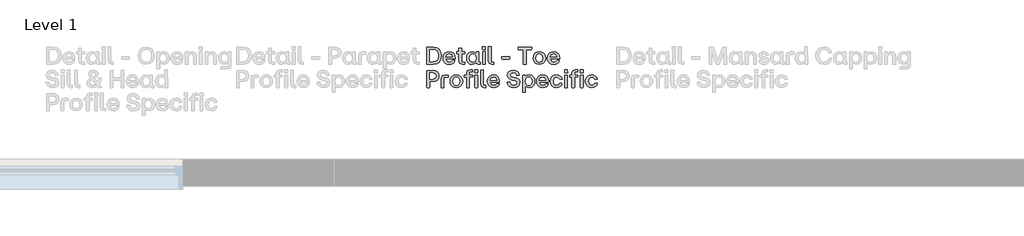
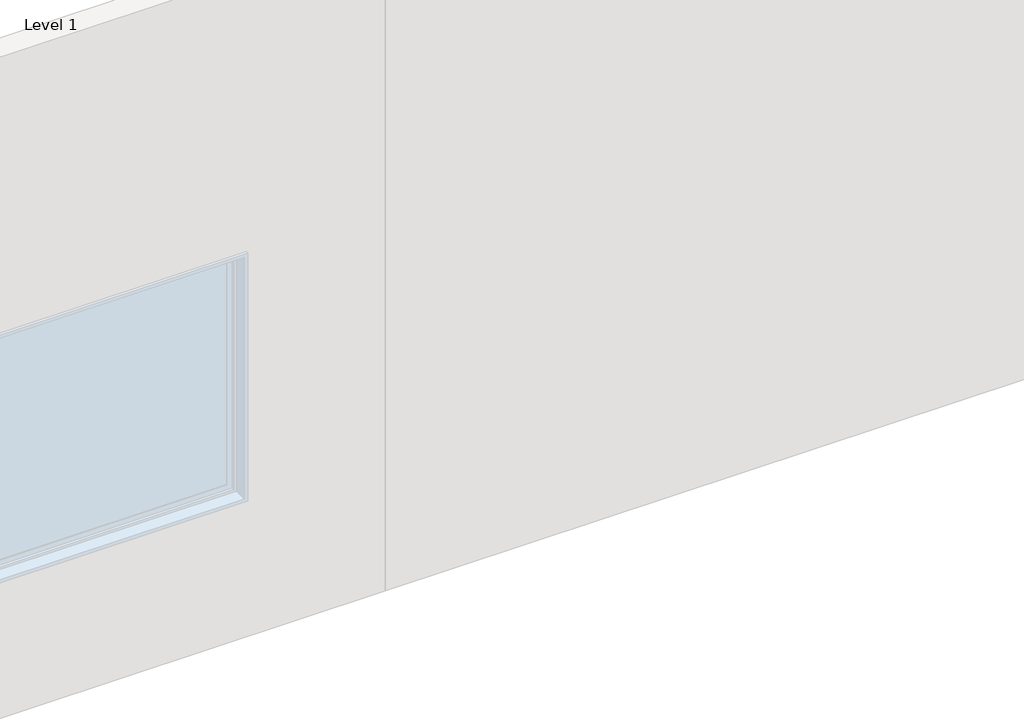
# One storey, part 46 of 64: 1 proxy.
"""IFC4 building model written with IfcOpenShell, lengths in millimetres."""

from ifc_helpers import new_model, si_unit, origin, origin_with_axes, place, context, project, spatial, polyline, outline, extrude, element, save

model = new_model("IFC4")

# Units and contexts
model_context = context("Model", 3, world=origin())
ifc_project = project(units=[si_unit("LENGTHUNIT", "METRE", prefix="MILLI")], contexts=[model_context])

# Site, building, storey
site = spatial("IfcSite", under=ifc_project)
building = spatial("IfcBuilding", under=site)
storey = spatial("IfcBuildingStorey", under=building, Name="Level 1", Elevation=0.0)

# Proxy
placement = place(None, origin())
element("IfcBuildingElementProxy", 1, Name="90mm", ObjectType="90mm", at=placement, inside=storey, context=model_context, shape_type="SweptSolid", body=[
    extrude(outline(polyline([(17110.2926176, -6500.0), (17108.9872124, -6498.7448027), (17108.9872124, -6411.3077612), (17142.5511873, -6410.002356), (17160.5475781, -6413.0054155), (17174.1193986, -6422.0145938), (17182.63905, -6436.3583606), (17185.4789338, -6455.3651852), (17182.648464, -6474.2025582), (17174.1570545, -6488.2890095), (17160.594648, -6497.0722524), (17142.5511873, -6500.0), (17110.2926176, -6500.0)]), holes=[polyline([(17123.7985402, -6487.3727155), (17141.6725492, -6487.3727155), (17153.8950326, -6485.311054), (17162.9481429, -6479.1260695), (17168.5494607, -6469.0625254), (17170.4165666, -6455.3651852), (17168.5431847, -6441.5109454), (17162.923039, -6431.1775339), (17153.8636527, -6424.7477859), (17141.6725492, -6422.6045366), (17123.7985402, -6422.6045366), (17123.7985402, -6487.3727155)])]), origin_with_axes(), (0.0, 0.0, 1.0), 20.0),
    extrude(outline(polyline([(17227.628458, -6500.7531184), (17214.0409476, -6498.4843493), (17203.5035666, -6491.6780421), (17196.7443293, -6481.0622112), (17194.4912502, -6467.3648711), (17196.7349153, -6453.5012173), (17203.4659107, -6442.7881086), (17213.9938777, -6435.9347315), (17227.628458, -6433.6502725), (17240.1584647, -6435.9033516), (17249.7324819, -6442.6625889), (17255.8044987, -6453.3129377), (17257.8285043, -6467.2393514), (17257.8285043, -6470.6785919), (17256.573307, -6472.009101), (17209.1268503, -6472.009101), (17214.6497183, -6484.6865934), (17227.628458, -6489.2053035), (17238.0465953, -6486.9082925), (17243.4439436, -6480.4691305), (17244.8246606, -6479.4147648), (17256.1967478, -6479.4147648), (17254.1633282, -6488.7314665), (17247.8120301, -6495.1925945), (17238.8248176, -6499.3629874), (17227.628458, -6500.7531184)]), holes=[polyline([(17209.2523701, -6461.5909637), (17243.8205028, -6461.5909637), (17239.0633051, -6449.6289337), (17227.628458, -6445.2733992), (17214.8631018, -6449.4155502), (17209.2523701, -6461.5909637)])]), origin_with_axes(), (0.0, 0.0, 1.0), 20.0),
    extrude(outline(polyline([(17296.6140998, -6500.0), (17282.731618, -6495.2302504), (17277.9618684, -6481.3477686), (17277.9618684, -6445.7754781), (17266.7906127, -6445.7754781), (17265.4852076, -6435.7339), (17266.7906127, -6434.4787027), (17277.9618684, -6434.4787027), (17277.9618684, -6416.45407), (17279.2170657, -6415.1486648), (17290.9657121, -6415.1486648), (17292.2209094, -6416.45407), (17292.2209094, -6434.4787027), (17308.0363949, -6434.4787027), (17309.3418001, -6435.7339), (17309.3418001, -6444.444969), (17292.2209094, -6445.7754781), (17292.2209094, -6488.7032246), (17308.0363949, -6488.7032246), (17309.3418001, -6489.9584219), (17309.3418001, -6498.7448027), (17308.0363949, -6500.0), (17296.6140998, -6500.0)])), origin_with_axes(), (0.0, 0.0, 1.0), 20.0),
    extrude(outline(polyline([(17347.2738615, -6500.7531184), (17335.3243835, -6498.4843493), (17326.0861316, -6491.6780421), (17320.1741525, -6481.0622112), (17318.2034928, -6467.3648711), (17320.1741525, -6453.5325972), (17326.0861316, -6442.8132125), (17335.3243835, -6435.9410075), (17347.2738615, -6433.6502725), (17359.1856835, -6436.5372262), (17368.160344, -6444.444969), (17368.7377347, -6435.7339), (17369.992932, -6434.4787027), (17381.6662665, -6434.4787027), (17382.9716717, -6435.7339), (17382.9716717, -6488.7032246), (17390.0760882, -6488.7032246), (17391.3312855, -6489.9584219), (17391.3312855, -6498.7448027), (17390.0760882, -6500.0), (17380.536589, -6500.0), (17372.1581473, -6497.6465051), (17369.3653333, -6490.5860205), (17359.7254183, -6497.8661646), (17347.2738615, -6500.7531184)]), holes=[polyline([(17332.7135732, -6467.3648711), (17337.6716024, -6483.3686362), (17343.5365116, -6487.7461367), (17351.2151809, -6489.2053035), (17358.7714684, -6487.7524127), (17364.470064, -6483.3937402), (17369.2398136, -6467.3648711), (17364.4324081, -6451.1728263), (17358.7243985, -6446.748256), (17351.2151809, -6445.2733992), (17343.5365116, -6446.748256), (17337.6716024, -6451.1728263), (17332.7135732, -6467.3648711)])]), origin_with_axes(), (0.0, 0.0, 1.0), 20.0),
    extrude(outline(polyline([(17403.6824266, -6500.0), (17402.3770214, -6498.7448027), (17402.3770214, -6435.7339), (17403.6824266, -6434.4787027), (17415.3557612, -6434.4787027), (17416.6109584, -6435.7339), (17416.6109584, -6498.7448027), (17415.3557612, -6500.0), (17403.6824266, -6500.0)])), origin_with_axes(), (0.0, 0.0, 1.0), 20.0),
    extrude(outline(polyline([(17401.3728636, -6421.8514182), (17401.3728636, -6407.9940404), (17402.6280609, -6406.6635313), (17416.4854387, -6406.6635313), (17417.8159478, -6421.8514182), (17416.4854387, -6423.1066155), (17402.6280609, -6423.1066155), (17401.3728636, -6421.8514182)])), origin_with_axes(), (0.0, 0.0, 1.0), 20.0),
    extrude(outline(polyline([(17451.5305464, -6500.0), (17437.6731686, -6495.2302504), (17432.903419, -6481.3477686), (17432.903419, -6408.7471587), (17445.8821587, -6407.4166496), (17447.137356, -6408.7471587), (17447.137356, -6488.7032246), (17459.1370418, -6488.7032246), (17460.3922391, -6489.9584219), (17460.3922391, -6498.7448027), (17459.1370418, -6500.0), (17451.5305464, -6500.0)])), origin_with_axes(), (0.0, 0.0, 1.0), 20.0),
    extrude(outline(polyline([(17505.1776775, -6472.887739), (17503.9224803, -6471.5572299), (17503.9224803, -6461.5909637), (17505.1776775, -6460.2604546), (17543.7875455, -6460.2604546), (17545.0427427, -6461.5909637), (17545.0427427, -6471.5572299), (17543.7875455, -6472.887739), (17505.1776775, -6472.887739)])), origin_with_axes(), (0.0, 0.0, 1.0), 20.0),
    extrude(outline(polyline([(17618.5973025, -6500.0), (17617.3421053, -6498.7448027), (17617.3421053, -6422.6045366), (17590.355364, -6422.6045366), (17589.0499589, -6421.3493393), (17589.0499589, -6411.3077612), (17659.1401742, -6410.002356), (17660.3953715, -6411.3077612), (17660.3953715, -6421.3493393), (17659.1401742, -6422.6045366), (17632.153433, -6422.6045366), (17632.153433, -6498.7448027), (17630.8480278, -6500.0), (17618.5973025, -6500.0)])), origin_with_axes(), (0.0, 0.0, 1.0), 20.0),
    extrude(outline(polyline([(17701.2143866, -6500.7531184), (17687.9877454, -6498.4466934), (17677.5288142, -6491.5274185), (17670.722507, -6480.8739317), (17668.4537379, -6467.3648711), (17670.728783, -6453.7679467), (17677.5539181, -6443.0014921), (17688.0191253, -6435.9880774), (17701.2143866, -6433.6502725), (17714.5665475, -6435.9880774), (17725.1007906, -6443.0014921), (17731.9447537, -6453.7679467), (17734.2260747, -6467.3648711), (17731.9447537, -6480.8739317), (17725.1007906, -6491.5274185), (17714.5665475, -6498.4466934), (17701.2143866, -6500.7531184)]), holes=[polyline([(17682.9638183, -6467.3648711), (17687.8214318, -6483.3937402), (17693.5984772, -6487.7524127), (17701.2143866, -6489.2053035), (17708.9118838, -6487.7461367), (17714.783069, -6483.3686362), (17719.7410982, -6467.3648711), (17714.808173, -6451.1728263), (17708.9432638, -6446.748256), (17701.2143866, -6445.2733992), (17693.5984772, -6446.748256), (17687.8214318, -6451.1728263), (17682.9638183, -6467.3648711)])]), origin_with_axes(), (0.0, 0.0, 1.0), 20.0),
    extrude(outline(polyline([(17777.1036133, -6500.7531184), (17763.5161029, -6498.4843493), (17752.9787219, -6491.6780421), (17746.2194846, -6481.0622112), (17743.9664055, -6467.3648711), (17746.2100706, -6453.5012173), (17752.9410659, -6442.7881086), (17763.469033, -6435.9347315), (17777.1036133, -6433.6502725), (17789.63362, -6435.9033516), (17799.2076372, -6442.6625889), (17805.2796539, -6453.3129377), (17807.3036595, -6467.2393514), (17807.3036595, -6470.6785919), (17806.0484623, -6472.009101), (17758.6020056, -6472.009101), (17764.1248736, -6484.6865934), (17777.1036133, -6489.2053035), (17787.5217506, -6486.9082925), (17792.9190989, -6480.4691305), (17794.2998159, -6479.4147648), (17805.6719031, -6479.4147648), (17803.6384835, -6488.7314665), (17797.2871854, -6495.1925945), (17788.2999729, -6499.3629874), (17777.1036133, -6500.7531184)]), holes=[polyline([(17758.7275253, -6461.5909637), (17793.295658, -6461.5909637), (17788.5384604, -6449.6289337), (17777.1036133, -6445.2733992), (17764.3382571, -6449.4155502), (17758.7275253, -6461.5909637)])]), origin_with_axes(), (0.0, 0.0, 1.0), 20.0),
    extrude(outline(polyline([(17110.2926176, -6622.13305), (17108.9872124, -6620.8778528), (17108.9872124, -6533.4408112), (17140.1161046, -6532.135406), (17154.0174144, -6534.0338919), (17164.3414119, -6539.7293495), (17170.7429179, -6548.9236695), (17172.8767533, -6561.3187425), (17170.7429179, -6573.7138155), (17164.3414119, -6582.9081354), (17154.0174144, -6588.603593), (17140.1161046, -6590.5020789), (17123.7985402, -6590.5020789), (17123.7985402, -6620.8778528), (17122.4680311, -6622.13305), (17110.2926176, -6622.13305)]), holes=[polyline([(17123.7985402, -6577.8747944), (17140.1161046, -6577.8747944), (17153.5969233, -6573.7954033), (17157.9901137, -6561.3061905), (17153.5969233, -6548.8169777), (17140.1161046, -6544.7375866), (17123.7985402, -6544.7375866), (17123.7985402, -6577.8747944)])]), origin_with_axes(), (0.0, 0.0, 1.0), 20.0),
    extrude(outline(polyline([(17186.1065325, -6622.13305), (17184.8513352, -6620.8778528), (17184.8513352, -6575.1886723), (17189.6210848, -6561.3438464), (17203.4784626, -6556.6117527), (17221.7541348, -6556.6117527), (17223.0093321, -6557.86695), (17223.0093321, -6567.4064492), (17221.7541348, -6568.6616465), (17199.0852722, -6568.6616465), (17199.0852722, -6620.8778528), (17197.8300749, -6622.13305), (17186.1065325, -6622.13305)])), origin_with_axes(), (0.0, 0.0, 1.0), 20.0),
    extrude(outline(polyline([(17264.2049064, -6622.8861684), (17250.9782652, -6620.5797434), (17240.519334, -6613.6604685), (17233.7130268, -6603.0069817), (17231.4442577, -6589.4979211), (17233.7193028, -6575.9009967), (17240.5444379, -6565.1345422), (17251.0096451, -6558.1211274), (17264.2049064, -6555.7833225), (17277.5570673, -6558.1211274), (17288.0913103, -6565.1345422), (17294.9352734, -6575.9009967), (17297.2165945, -6589.4979211), (17294.9352734, -6603.0069817), (17288.0913103, -6613.6604685), (17277.5570673, -6620.5797434), (17264.2049064, -6622.8861684)]), holes=[polyline([(17245.9543381, -6589.4979211), (17250.8119515, -6605.5267902), (17256.588997, -6609.8854627), (17264.2049064, -6611.3383535), (17271.9024036, -6609.8791867), (17277.7735888, -6605.5016862), (17282.731618, -6589.4979211), (17277.7986928, -6573.3058764), (17271.9337835, -6568.881306), (17264.2049064, -6567.4064492), (17256.588997, -6568.881306), (17250.8119515, -6573.3058764), (17245.9543381, -6589.4979211)])]), origin_with_axes(), (0.0, 0.0, 1.0), 20.0),
    extrude(outline(polyline([(17319.3833782, -6622.13305), (17318.1281809, -6620.8778528), (17318.1281809, -6567.9085281), (17306.9569253, -6567.9085281), (17305.6515201, -6557.86695), (17306.9569253, -6556.6117527), (17318.1281809, -6556.6117527), (17318.1281809, -6548.201931), (17322.8979305, -6534.3194493), (17336.7804123, -6529.5496997), (17348.2027074, -6529.5496997), (17349.5081126, -6539.5912778), (17332.3872219, -6540.9217869), (17332.3872219, -6556.6117527), (17348.2027074, -6556.6117527), (17349.5081126, -6557.86695), (17349.5081126, -6566.578019), (17332.3872219, -6567.9085281), (17332.3872219, -6620.8778528), (17331.1320246, -6622.13305), (17319.3833782, -6622.13305)])), origin_with_axes(), (0.0, 0.0, 1.0), 20.0),
    extrude(outline(polyline([(17361.3069669, -6543.9844682), (17361.3069669, -6530.1270904), (17362.5621642, -6528.7965813), (17376.4948538, -6528.7965813), (17377.7500511, -6530.1270904), (17377.7500511, -6543.9844682), (17376.4948538, -6545.2396655), (17362.5621642, -6545.2396655), (17361.3069669, -6543.9844682)])), origin_with_axes(), (0.0, 0.0, 1.0), 20.0),
    extrude(outline(polyline([(17362.3111247, -6620.8778528), (17362.3111247, -6557.86695), (17363.6416338, -6556.6117527), (17375.3149684, -6556.6117527), (17376.6203735, -6557.86695), (17376.6203735, -6620.8778528), (17375.3149684, -6622.13305), (17363.6416338, -6622.13305), (17362.3111247, -6620.8778528)])), origin_with_axes(), (0.0, 0.0, 1.0), 20.0),
    extrude(outline(polyline([(17411.3642339, -6622.13305), (17397.506856, -6617.3633004), (17392.7371064, -6603.4808186), (17392.7371064, -6530.8802088), (17405.7158462, -6529.5496997), (17406.9710434, -6530.8802088), (17406.9710434, -6610.8362746), (17418.9707293, -6610.8362746), (17420.2259266, -6612.0914719), (17420.2259266, -6620.8778528), (17418.9707293, -6622.13305), (17411.3642339, -6622.13305)])), origin_with_axes(), (0.0, 0.0, 1.0), 20.0),
    extrude(outline(polyline([(17460.5930707, -6622.8861684), (17447.0055602, -6620.6173993), (17436.4681792, -6613.8110921), (17429.7089419, -6603.1952613), (17427.4558628, -6589.4979211), (17429.6995279, -6575.6342673), (17436.4305233, -6564.9211586), (17446.9584903, -6558.0677815), (17460.5930707, -6555.7833225), (17473.1230774, -6558.0364016), (17482.6970945, -6564.7956389), (17488.7691113, -6575.4459877), (17490.7931169, -6589.3724014), (17490.7931169, -6592.8116419), (17489.5379196, -6594.142151), (17442.0914629, -6594.142151), (17447.6143309, -6606.8196434), (17460.5930707, -6611.3383535), (17471.011208, -6609.0413425), (17476.4085562, -6602.6021806), (17477.7892732, -6601.5478148), (17489.1613604, -6601.5478148), (17487.1279409, -6610.8645166), (17480.7766427, -6617.3256445), (17471.7894303, -6621.4960374), (17460.5930707, -6622.8861684)]), holes=[polyline([(17442.2169827, -6583.7240137), (17476.7851154, -6583.7240137), (17472.0279177, -6571.7619837), (17460.5930707, -6567.4064492), (17447.8277145, -6571.5486002), (17442.2169827, -6583.7240137)])]), origin_with_axes(), (0.0, 0.0, 1.0), 20.0),
    extrude(outline(polyline([(17566.8831752, -6622.8861684), (17553.1136611, -6621.0347524), (17542.4319324, -6615.4805045), (17535.1706162, -6606.5058441), (17531.6623399, -6594.3931904), (17544.917223, -6592.9371616), (17546.2226282, -6594.142151), (17552.4107507, -6606.6941236), (17566.8831752, -6610.5852352), (17579.3974919, -6607.007923), (17583.8785461, -6597.0793126), (17580.7782089, -6588.8326665), (17570.3977275, -6584.7281715), (17558.5235614, -6582.644544), (17547.5186193, -6579.3904451), (17539.6579465, -6574.0715467), (17534.9415427, -6566.6878488), (17533.3694082, -6557.2393514), (17535.3839998, -6546.397585), (17541.4277746, -6538.2231128), (17551.0802416, -6533.0924939), (17563.9209096, -6531.3822877), (17576.6548859, -6533.1144599), (17586.5897722, -6538.3109766), (17593.3803895, -6546.6643144), (17596.6815583, -6557.86695), (17583.501987, -6559.2978749), (17582.0710621, -6557.86695), (17576.2594987, -6547.1601173), (17563.9209096, -6543.7334288), (17552.1597112, -6546.8714219), (17548.1054241, -6556.034362), (17551.7203922, -6564.732879), (17563.0422715, -6569.2892451), (17574.8411258, -6571.3477686), (17585.6609263, -6574.5171417), (17593.0163822, -6579.6069666), (17597.2338451, -6586.9373187), (17598.639666, -6596.8282731), (17596.5277966, -6607.7422134), (17590.1921884, -6615.9825834), (17580.1411963, -6621.1602721), (17566.8831752, -6622.8861684)])), origin_with_axes(), (0.0, 0.0, 1.0), 20.0),
    extrude(outline(polyline([(17614.1539042, -6646.5340849), (17612.848499, -6645.2788876), (17612.848499, -6557.86695), (17614.1539042, -6556.6117527), (17625.1996401, -6556.6117527), (17626.4548374, -6557.86695), (17626.4548374, -6566.4524993), (17636.0947524, -6558.6702762), (17648.5463093, -6555.7833225), (17660.4957873, -6558.0583676), (17669.7340392, -6564.8835027), (17675.6460183, -6575.5244375), (17677.616678, -6589.2468816), (17675.6460183, -6603.0540516), (17669.7340392, -6613.7483323), (17660.4957873, -6620.6017094), (17648.5463093, -6622.8861684), (17636.6344872, -6619.9992147), (17627.6598268, -6612.0914719), (17627.082436, -6645.2788876), (17625.8272388, -6646.5340849), (17614.1539042, -6646.5340849)]), holes=[polyline([(17626.5803571, -6589.2468816), (17631.3877627, -6605.4389264), (17637.0957722, -6609.8634967), (17644.6049899, -6611.3383535), (17652.2836592, -6609.8634967), (17658.1485684, -6605.4389264), (17663.1065976, -6589.2468816), (17658.1485684, -6573.2431165), (17652.2836592, -6568.865616), (17644.6049899, -6567.4064492), (17637.0487023, -6568.856202), (17631.3501068, -6573.2054606), (17626.5803571, -6589.2468816)])]), origin_with_axes(), (0.0, 0.0, 1.0), 20.0),
    extrude(outline(polyline([(17719.2641233, -6622.8861684), (17705.6766129, -6620.6173993), (17695.1392318, -6613.8110921), (17688.3799945, -6603.1952613), (17686.1269155, -6589.4979211), (17688.3705806, -6575.6342673), (17695.1015759, -6564.9211586), (17705.629543, -6558.0677815), (17719.2641233, -6555.7833225), (17731.79413, -6558.0364016), (17741.3681471, -6564.7956389), (17747.4401639, -6575.4459877), (17749.4641695, -6589.3724014), (17749.4641695, -6592.8116419), (17748.2089722, -6594.142151), (17700.7625156, -6594.142151), (17706.2853836, -6606.8196434), (17719.2641233, -6611.3383535), (17729.6822606, -6609.0413425), (17735.0796088, -6602.6021806), (17736.4603258, -6601.5478148), (17747.8324131, -6601.5478148), (17745.7989935, -6610.8645166), (17739.4476953, -6617.3256445), (17730.4604829, -6621.4960374), (17719.2641233, -6622.8861684)]), holes=[polyline([(17700.8880353, -6583.7240137), (17735.456168, -6583.7240137), (17730.6989704, -6571.7619837), (17719.2641233, -6567.4064492), (17706.4987671, -6571.5486002), (17700.8880353, -6583.7240137)])]), origin_with_axes(), (0.0, 0.0, 1.0), 20.0),
    extrude(outline(polyline([(17791.4379661, -6622.8861684), (17777.9445955, -6620.6173993), (17767.4385944, -6613.8110921), (17760.6793571, -6603.1952613), (17758.426278, -6589.4979211), (17760.710737, -6575.9009967), (17767.5641141, -6565.1345422), (17778.1014951, -6558.1211274), (17791.4379661, -6555.7833225), (17802.4209422, -6557.3303532), (17811.3704987, -6561.971445), (17817.6841409, -6569.1543114), (17820.7593742, -6578.3266654), (17808.1320897, -6579.7073824), (17801.7054797, -6570.1678832), (17791.4379661, -6567.4064492), (17783.680847, -6568.881306), (17777.8316277, -6573.3058764), (17772.9363584, -6589.4979211), (17777.8567317, -6605.5644461), (17783.7122269, -6609.8948767), (17791.4379661, -6611.3383535), (17802.019279, -6608.7024393), (17807.3789714, -6600.1670979), (17808.7596884, -6598.9621085), (17820.1317756, -6598.9621085), (17818.12346, -6609.4712476), (17811.7470579, -6616.6980459), (17802.7033616, -6621.3391377), (17791.4379661, -6622.8861684)])), origin_with_axes(), (0.0, 0.0, 1.0), 20.0),
    extrude(outline(polyline([(17833.5623863, -6543.9844682), (17833.5623863, -6530.1270904), (17834.8175836, -6528.7965813), (17848.6749614, -6528.7965813), (17850.0054705, -6543.9844682), (17848.6749614, -6545.2396655), (17834.8175836, -6545.2396655), (17833.5623863, -6543.9844682)])), origin_with_axes(), (0.0, 0.0, 1.0), 20.0),
    extrude(outline(polyline([(17835.8719493, -6622.13305), (17834.5665442, -6620.8778528), (17834.5665442, -6557.86695), (17835.8719493, -6556.6117527), (17847.5452839, -6556.6117527), (17848.8004812, -6557.86695), (17848.8004812, -6620.8778528), (17847.5452839, -6622.13305), (17835.8719493, -6622.13305)])), origin_with_axes(), (0.0, 0.0, 1.0), 20.0),
    extrude(outline(polyline([(17915.6020797, -6543.9844682), (17915.6020797, -6530.1270904), (17916.8572769, -6528.7965813), (17930.7899666, -6528.7965813), (17932.0451639, -6530.1270904), (17932.0451639, -6543.9844682), (17930.7899666, -6545.2396655), (17916.8572769, -6545.2396655), (17915.6020797, -6543.9844682)])), origin_with_axes(), (0.0, 0.0, 1.0), 20.0),
    extrude(outline(polyline([(17916.6062375, -6620.8778528), (17916.6062375, -6557.86695), (17917.9367466, -6556.6117527), (17929.6100812, -6556.6117527), (17930.9154863, -6557.86695), (17930.9154863, -6620.8778528), (17929.6100812, -6622.13305), (17917.9367466, -6622.13305), (17916.6062375, -6620.8778528)])), origin_with_axes(), (0.0, 0.0, 1.0), 20.0),
    extrude(outline(polyline([(17873.678491, -6622.13305), (17872.4232937, -6620.8778528), (17872.4232937, -6567.9085281), (17861.252038, -6567.9085281), (17859.9466329, -6557.86695), (17861.252038, -6556.6117527), (17872.4232937, -6556.6117527), (17872.4232937, -6548.201931), (17877.1930433, -6534.3194493), (17891.0755251, -6529.5496997), (17902.4978202, -6529.5496997), (17903.8032254, -6539.5912778), (17886.6823347, -6540.9217869), (17886.6823347, -6556.6117527), (17902.4978202, -6556.6117527), (17903.8032254, -6557.86695), (17903.8032254, -6566.578019), (17886.6823347, -6567.9085281), (17886.6823347, -6620.8778528), (17885.4271374, -6622.13305), (17873.678491, -6622.13305)])), origin_with_axes(), (0.0, 0.0, 1.0), 20.0),
    extrude(outline(polyline([(17976.2030037, -6622.8861684), (17962.7096331, -6620.6173993), (17952.203632, -6613.8110921), (17945.4443947, -6603.1952613), (17943.1913156, -6589.4979211), (17945.4757746, -6575.9009967), (17952.3291517, -6565.1345422), (17962.8665327, -6558.1211274), (17976.2030037, -6555.7833225), (17987.1859798, -6557.3303532), (17996.1355363, -6561.971445), (18002.4491785, -6569.1543114), (18005.5244118, -6578.3266654), (17992.8971273, -6579.7073824), (17986.4705173, -6570.1678832), (17976.2030037, -6567.4064492), (17968.4458846, -6568.881306), (17962.5966653, -6573.3058764), (17957.701396, -6589.4979211), (17962.6217693, -6605.5644461), (17968.4772645, -6609.8948767), (17976.2030037, -6611.3383535), (17986.7843166, -6608.7024393), (17992.144009, -6600.1670979), (17993.524726, -6598.9621085), (18004.8968132, -6598.9621085), (18002.8884976, -6609.4712476), (17996.5120955, -6616.6980459), (17987.4683992, -6621.3391377), (17976.2030037, -6622.8861684)])), origin_with_axes(), (0.0, 0.0, 1.0), 20.0),
])

save(model, "model.ifc")
